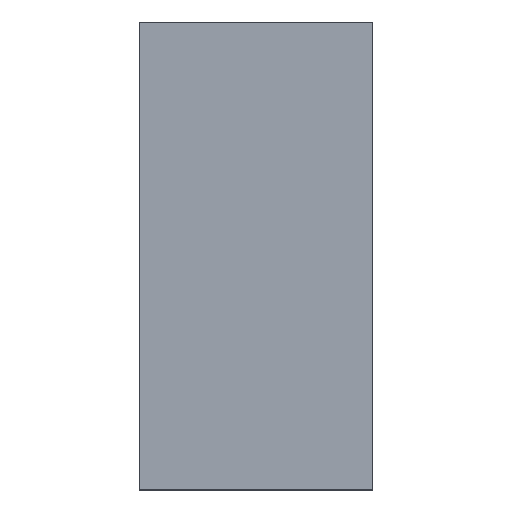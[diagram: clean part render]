
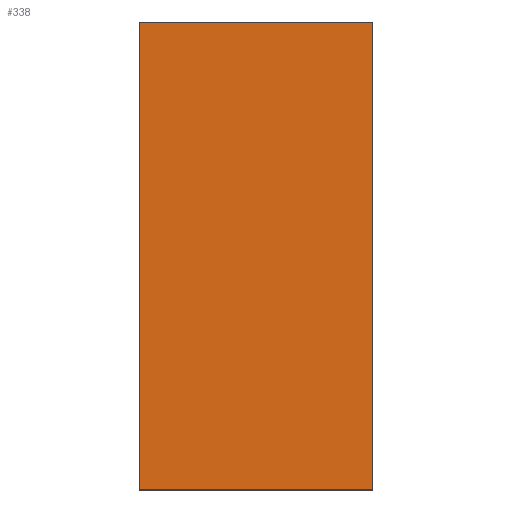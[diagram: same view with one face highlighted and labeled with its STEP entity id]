
A CAD part, top view. The second image highlights one B-rep face of the part: STEP entity #338.
In plain terms, the highlighted planar face has unit normal (0, 0, 1).
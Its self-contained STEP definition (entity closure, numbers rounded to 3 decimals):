
#24 = VERTEX_POINT('',#25);
#25 = CARTESIAN_POINT('',(-75.,-150.,30.));
#32 = PLANE('',#33);
#33 = AXIS2_PLACEMENT_3D('',#34,#35,#36);
#34 = CARTESIAN_POINT('',(-75.,-150.,0.));
#35 = DIRECTION('',(0.,1.,0.));
#36 = DIRECTION('',(1.,0.,0.));
#44 = PLANE('',#45);
#45 = AXIS2_PLACEMENT_3D('',#46,#47,#48);
#46 = CARTESIAN_POINT('',(-75.,150.,0.));
#47 = DIRECTION('',(1.,0.,-0.));
#48 = DIRECTION('',(0.,-1.,0.));
#56 = EDGE_CURVE('',#24,#57,#59,.T.);
#57 = VERTEX_POINT('',#58);
#58 = CARTESIAN_POINT('',(75.,-150.,30.));
#59 = SURFACE_CURVE('',#60,(#64,#71),.PCURVE_S1.);
#60 = LINE('',#61,#62);
#61 = CARTESIAN_POINT('',(-75.,-150.,30.));
#62 = VECTOR('',#63,1.);
#63 = DIRECTION('',(1.,0.,0.));
#64 = PCURVE('',#32,#65);
#65 = DEFINITIONAL_REPRESENTATION('',(#66),#70);
#66 = LINE('',#67,#68);
#67 = CARTESIAN_POINT('',(0.,-30.));
#68 = VECTOR('',#69,1.);
#69 = DIRECTION('',(1.,0.));
#70 = ( GEOMETRIC_REPRESENTATION_CONTEXT(2) 
PARAMETRIC_REPRESENTATION_CONTEXT() REPRESENTATION_CONTEXT('2D SPACE',''
  ) );
#71 = PCURVE('',#72,#77);
#72 = PLANE('',#73);
#73 = AXIS2_PLACEMENT_3D('',#74,#75,#76);
#74 = CARTESIAN_POINT('',(0.,0.,30.));
#75 = DIRECTION('',(0.,0.,1.));
#76 = DIRECTION('',(1.,0.,-0.));
#77 = DEFINITIONAL_REPRESENTATION('',(#78),#82);
#78 = LINE('',#79,#80);
#79 = CARTESIAN_POINT('',(-75.,-150.));
#80 = VECTOR('',#81,1.);
#81 = DIRECTION('',(1.,0.));
#82 = ( GEOMETRIC_REPRESENTATION_CONTEXT(2) 
PARAMETRIC_REPRESENTATION_CONTEXT() REPRESENTATION_CONTEXT('2D SPACE',''
  ) );
#100 = PLANE('',#101);
#101 = AXIS2_PLACEMENT_3D('',#102,#103,#104);
#102 = CARTESIAN_POINT('',(75.,-150.,0.));
#103 = DIRECTION('',(-1.,0.,0.));
#104 = DIRECTION('',(0.,1.,0.));
#142 = EDGE_CURVE('',#57,#143,#145,.T.);
#143 = VERTEX_POINT('',#144);
#144 = CARTESIAN_POINT('',(75.,150.,30.));
#145 = SURFACE_CURVE('',#146,(#150,#157),.PCURVE_S1.);
#146 = LINE('',#147,#148);
#147 = CARTESIAN_POINT('',(75.,-150.,30.));
#148 = VECTOR('',#149,1.);
#149 = DIRECTION('',(0.,1.,0.));
#150 = PCURVE('',#100,#151);
#151 = DEFINITIONAL_REPRESENTATION('',(#152),#156);
#152 = LINE('',#153,#154);
#153 = CARTESIAN_POINT('',(0.,-30.));
#154 = VECTOR('',#155,1.);
#155 = DIRECTION('',(1.,0.));
#156 = ( GEOMETRIC_REPRESENTATION_CONTEXT(2) 
PARAMETRIC_REPRESENTATION_CONTEXT() REPRESENTATION_CONTEXT('2D SPACE',''
  ) );
#157 = PCURVE('',#72,#158);
#158 = DEFINITIONAL_REPRESENTATION('',(#159),#163);
#159 = LINE('',#160,#161);
#160 = CARTESIAN_POINT('',(75.,-150.));
#161 = VECTOR('',#162,1.);
#162 = DIRECTION('',(0.,1.));
#163 = ( GEOMETRIC_REPRESENTATION_CONTEXT(2) 
PARAMETRIC_REPRESENTATION_CONTEXT() REPRESENTATION_CONTEXT('2D SPACE',''
  ) );
#181 = PLANE('',#182);
#182 = AXIS2_PLACEMENT_3D('',#183,#184,#185);
#183 = CARTESIAN_POINT('',(75.,150.,0.));
#184 = DIRECTION('',(0.,-1.,0.));
#185 = DIRECTION('',(-1.,0.,0.));
#218 = EDGE_CURVE('',#143,#219,#221,.T.);
#219 = VERTEX_POINT('',#220);
#220 = CARTESIAN_POINT('',(-75.,150.,30.));
#221 = SURFACE_CURVE('',#222,(#226,#233),.PCURVE_S1.);
#222 = LINE('',#223,#224);
#223 = CARTESIAN_POINT('',(75.,150.,30.));
#224 = VECTOR('',#225,1.);
#225 = DIRECTION('',(-1.,0.,0.));
#226 = PCURVE('',#181,#227);
#227 = DEFINITIONAL_REPRESENTATION('',(#228),#232);
#228 = LINE('',#229,#230);
#229 = CARTESIAN_POINT('',(0.,-30.));
#230 = VECTOR('',#231,1.);
#231 = DIRECTION('',(1.,0.));
#232 = ( GEOMETRIC_REPRESENTATION_CONTEXT(2) 
PARAMETRIC_REPRESENTATION_CONTEXT() REPRESENTATION_CONTEXT('2D SPACE',''
  ) );
#233 = PCURVE('',#72,#234);
#234 = DEFINITIONAL_REPRESENTATION('',(#235),#239);
#235 = LINE('',#236,#237);
#236 = CARTESIAN_POINT('',(75.,150.));
#237 = VECTOR('',#238,1.);
#238 = DIRECTION('',(-1.,0.));
#239 = ( GEOMETRIC_REPRESENTATION_CONTEXT(2) 
PARAMETRIC_REPRESENTATION_CONTEXT() REPRESENTATION_CONTEXT('2D SPACE',''
  ) );
#289 = EDGE_CURVE('',#219,#24,#290,.T.);
#290 = SURFACE_CURVE('',#291,(#295,#302),.PCURVE_S1.);
#291 = LINE('',#292,#293);
#292 = CARTESIAN_POINT('',(-75.,150.,30.));
#293 = VECTOR('',#294,1.);
#294 = DIRECTION('',(0.,-1.,0.));
#295 = PCURVE('',#44,#296);
#296 = DEFINITIONAL_REPRESENTATION('',(#297),#301);
#297 = LINE('',#298,#299);
#298 = CARTESIAN_POINT('',(0.,-30.));
#299 = VECTOR('',#300,1.);
#300 = DIRECTION('',(1.,0.));
#301 = ( GEOMETRIC_REPRESENTATION_CONTEXT(2) 
PARAMETRIC_REPRESENTATION_CONTEXT() REPRESENTATION_CONTEXT('2D SPACE',''
  ) );
#302 = PCURVE('',#72,#303);
#303 = DEFINITIONAL_REPRESENTATION('',(#304),#308);
#304 = LINE('',#305,#306);
#305 = CARTESIAN_POINT('',(-75.,150.));
#306 = VECTOR('',#307,1.);
#307 = DIRECTION('',(0.,-1.));
#308 = ( GEOMETRIC_REPRESENTATION_CONTEXT(2) 
PARAMETRIC_REPRESENTATION_CONTEXT() REPRESENTATION_CONTEXT('2D SPACE',''
  ) );
#338 = ADVANCED_FACE('',(#339),#72,.T.);
#339 = FACE_BOUND('',#340,.T.);
#340 = EDGE_LOOP('',(#341,#342,#343,#344));
#341 = ORIENTED_EDGE('',*,*,#56,.T.);
#342 = ORIENTED_EDGE('',*,*,#142,.T.);
#343 = ORIENTED_EDGE('',*,*,#218,.T.);
#344 = ORIENTED_EDGE('',*,*,#289,.T.);
